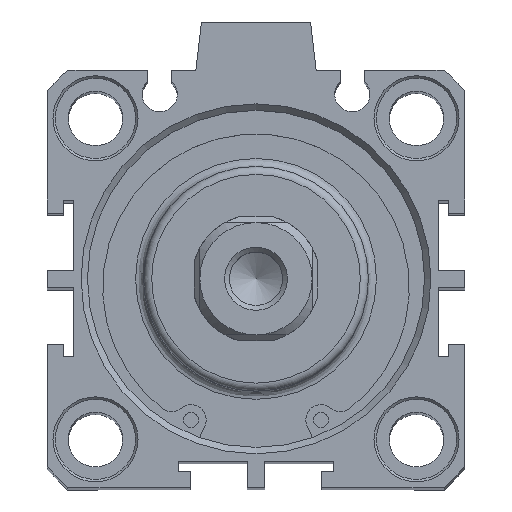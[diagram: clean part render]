
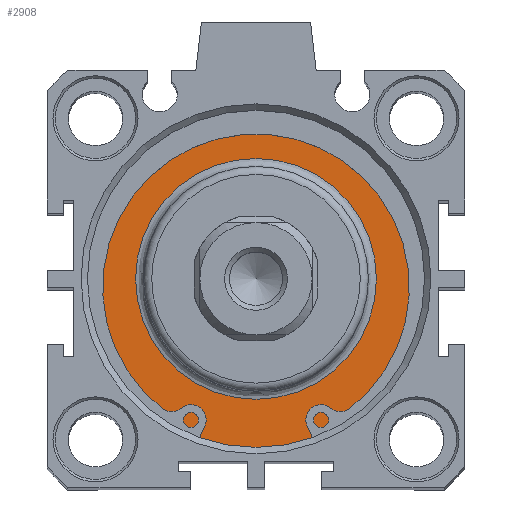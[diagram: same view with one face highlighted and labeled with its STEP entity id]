
A CAD part, top view. The second image highlights one B-rep face of the part: STEP entity #2908.
In plain terms, the highlighted planar face has unit normal (0, 0, 1).
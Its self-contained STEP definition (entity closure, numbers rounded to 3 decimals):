
#2857=CARTESIAN_POINT('',(0.598,16.555,172.4));
#2858=VERTEX_POINT('',#2857);
#2859=CARTESIAN_POINT('',(0.598,1.555,172.4));
#2860=DIRECTION('',(0.0,0.0,1.0));
#2861=DIRECTION('',(0.0,-1.0,0.0));
#2862=AXIS2_PLACEMENT_3D('',#2859,#2860,#2861);
#2863=CIRCLE('',#2862,15.);
#2864=EDGE_CURVE('',#2858,#2858,#2863,.T.);
#2889=CARTESIAN_POINT('',(0.598,19.055,172.4));
#2890=DIRECTION('',(0.0,0.0,1.0));
#2891=DIRECTION('',(1.0,0.0,0.0));
#2892=AXIS2_PLACEMENT_3D('',#2889,#2890,#2891);
#2893=PLANE('',#2892);
#2894=CARTESIAN_POINT('',(0.598,22.555,172.4));
#2895=VERTEX_POINT('',#2894);
#2896=CARTESIAN_POINT('',(0.598,1.555,172.4));
#2897=DIRECTION('',(0.0,0.0,-1.0));
#2898=DIRECTION('',(0.0,1.0,0.0));
#2899=AXIS2_PLACEMENT_3D('',#2896,#2897,#2898);
#2900=CIRCLE('',#2899,21.);
#2901=EDGE_CURVE('',#2895,#2895,#2900,.T.);
#2902=ORIENTED_EDGE('',*,*,#2901,.F.);
#2903=EDGE_LOOP('',(#2902));
#2904=FACE_OUTER_BOUND('',#2903,.T.);
#2905=ORIENTED_EDGE('',*,*,#2864,.F.);
#2906=EDGE_LOOP('',(#2905));
#2907=FACE_BOUND('',#2906,.T.);
#2908=ADVANCED_FACE('',(#2904,#2907),#2893,.T.);
